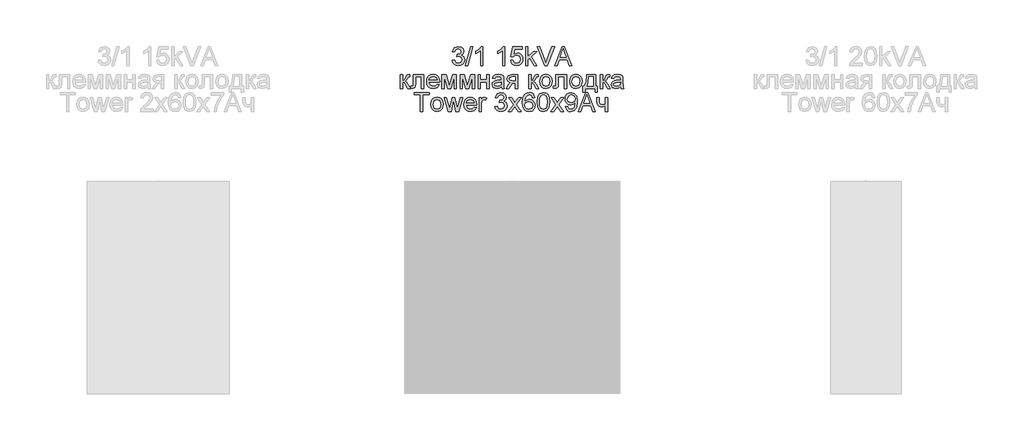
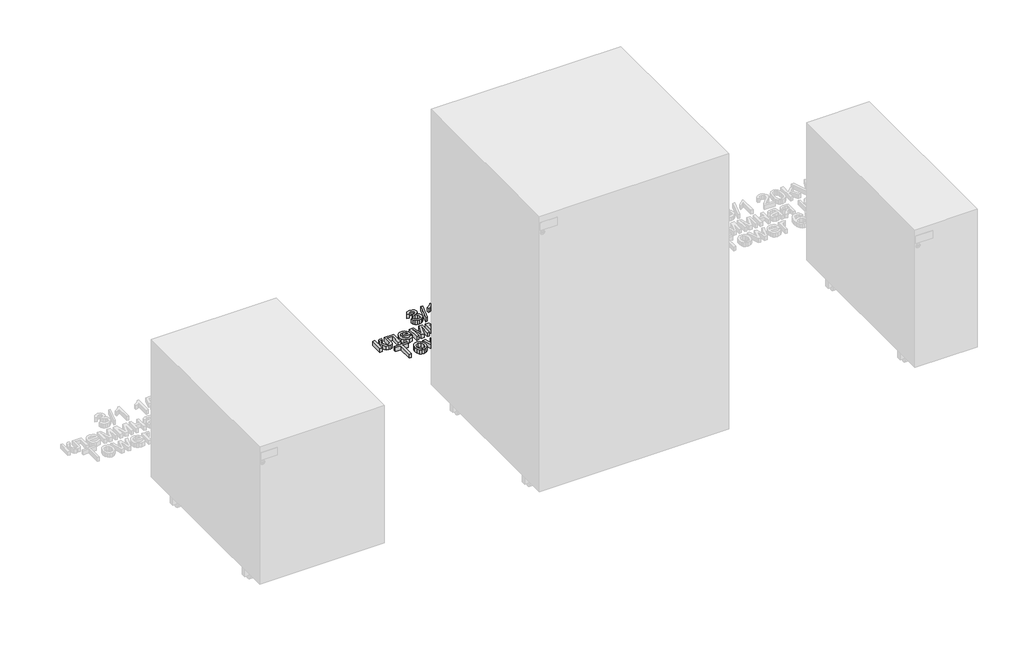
# One storey, part 46 of 74: 1 proxy.
"""IFC4 building model written with IfcOpenShell, lengths in millimetres."""

from ifc_helpers import new_model, si_unit, origin, origin_with_axes, place, context, project, spatial, polyline, outline, extrude, element, save

model = new_model("IFC4")

# Units and contexts
model_context = context("Model", 3, world=origin())
ifc_project = project(units=[si_unit("LENGTHUNIT", "METRE", prefix="MILLI")], contexts=[model_context])

# Site, building, storey
site = spatial("IfcSite", under=ifc_project)
building = spatial("IfcBuilding", under=site)
storey = spatial("IfcBuildingStorey", under=building, Name="Этаж 01", Elevation=0.0)

# Proxy
placement = place(None, origin())
element("IfcBuildingElementProxy", 1, Name="80 мм Arial", ObjectType="80 мм Arial", at=placement, inside=storey, context=model_context, shape_type="SweptSolid", body=[
    extrude(outline(polyline([(11598.3137414, -15105.2863601), (11608.3593724, -15104.0306562), (11613.9021278, -15114.6060373), (11624.2714949, -15117.8433988), (11636.475367, -15113.3895741), (11641.0076732, -15102.3629245), (11636.5146077, -15091.9739369), (11625.0955506, -15087.8634688), (11618.0518367, -15088.9622097), (11619.1701979, -15078.9165786), (11620.7790685, -15079.0343009), (11632.1785053, -15076.150106), (11637.2405615, -15067.2816974), (11633.5715518, -15059.423738), (11624.114532, -15056.3139089), (11614.5397899, -15059.4531685), (11609.6150762, -15068.8709476), (11599.5694452, -15067.6152437), (11607.7903816, -15051.8600842), (11623.7613652, -15046.2682778), (11635.8769456, -15049.0249403), (11644.3529468, -15056.5591635), (11647.2861926, -15066.6930862), (11644.5000996, -15075.9539023), (11636.2595429, -15082.6052088), (11647.2077111, -15089.4723394), (11651.0533042, -15102.5395078), (11649.1305076, -15112.330074), (11643.3621179, -15120.5117696), (11634.6555774, -15126.0447148), (11623.9183282, -15127.8890298), (11614.2062435, -15126.3144949), (11606.2992332, -15121.5908901), (11600.8006236, -15114.3656877), (11598.3137414, -15105.2863601)])), origin_with_axes(), (0.0, 0.0, 1.0), 20.0),
    extrude(outline(polyline([(11654.8204158, -15126.633326), (11677.4230856, -15046.2682778), (11686.487698, -15046.2682778), (11663.8850282, -15126.633326), (11654.8204158, -15126.633326)])), origin_with_axes(), (0.0, 0.0, 1.0), 20.0),
    extrude(outline(polyline([(11728.9069446, -15126.633326), (11718.8613135, -15126.633326), (11718.8613135, -15064.0050951), (11709.3454326, -15070.783934), (11698.7700515, -15075.8558004), (11698.7700515, -15066.3595399), (11713.4951415, -15056.9613812), (11722.4322214, -15046.2682778), (11728.9069446, -15046.2682778), (11728.9069446, -15126.633326)])), origin_with_axes(), (0.0, 0.0, 1.0), 20.0),
    extrude(outline(polyline([(11821.8290314, -15126.633326), (11811.7834004, -15126.633326), (11811.7834004, -15064.0050951), (11802.2675195, -15070.783934), (11791.6921384, -15075.8558004), (11791.6921384, -15066.3595399), (11806.4172284, -15056.9613812), (11815.3543083, -15046.2682778), (11821.8290314, -15046.2682778), (11821.8290314, -15126.633326)])), origin_with_axes(), (0.0, 0.0, 1.0), 20.0),
    extrude(outline(polyline([(11845.6874051, -15105.2863601), (11855.7330361, -15104.0306562), (11860.7950924, -15114.380403), (11871.291992, -15117.8433988), (11883.8882715, -15113.0265972), (11888.3813369, -15100.2439242), (11884.1727669, -15088.3147373), (11871.4489549, -15083.9393941), (11862.6295973, -15085.6856074), (11856.98874, -15090.2179135), (11846.943109, -15088.9622097), (11855.7330361, -15047.5239817), (11894.6598563, -15047.5239817), (11894.6598563, -15057.5696127), (11863.8558706, -15057.5696127), (11859.5590089, -15079.7013936), (11874.2546683, -15073.8937631), (11883.6405643, -15075.6939324), (11891.4323049, -15081.0944401), (11896.6783022, -15089.3251866), (11898.4269679, -15099.6160722), (11896.852433, -15109.6617032), (11892.1288282, -15118.2554267), (11883.0838362, -15125.480629), (11871.2527512, -15127.8890298), (11861.3861561, -15126.3414729), (11853.5257441, -15121.6988021), (11848.1374992, -15114.5005778), (11845.6874051, -15105.2863601)])), origin_with_axes(), (0.0, 0.0, 1.0), 20.0),
    extrude(outline(polyline([(11909.7283028, -15126.633326), (11909.7283028, -15046.2682778), (11919.7739338, -15046.2682778), (11919.7739338, -15089.452719), (11942.2981221, -15067.6152437), (11956.1893463, -15067.6152437), (11933.3904728, -15089.7274042), (11957.4450501, -15126.633326), (11945.712067, -15126.633326), (11926.1897958, -15096.712257), (11919.7739338, -15102.9319153), (11919.7739338, -15126.633326), (11909.7283028, -15126.633326)])), origin_with_axes(), (0.0, 0.0, 1.0), 20.0),
    extrude(outline(polyline([(11991.2313326, -15126.633326), (11959.2501245, -15046.2682778), (11970.0020889, -15046.2682778), (11991.4079159, -15104.1679988), (11995.7440184, -15117.2155469), (12000.0212597, -15104.1679988), (12021.4859479, -15046.2682778), (12032.2379123, -15046.2682778), (12001.6105099, -15126.633326), (11991.2313326, -15126.633326)])), origin_with_axes(), (0.0, 0.0, 1.0), 20.0),
    extrude(outline(polyline([(12032.2182919, -15126.633326), (12064.2976019, -15046.2682778), (12072.8520846, -15046.2682778), (12104.9313946, -15126.633326), (12094.3167727, -15126.633326), (12085.1148177, -15101.5192484), (12052.0152484, -15101.5192484), (12042.8329138, -15126.633326), (12032.2182919, -15126.633326)]), holes=[polyline([(12055.7038785, -15091.4736174), (12081.445808, -15091.4736174), (12074.2058903, -15071.7159017), (12068.5748432, -15056.3139089), (12063.5716481, -15069.9893089), (12055.7038785, -15091.4736174)])]), origin_with_axes(), (0.0, 0.0, 1.0), 20.0),
    extrude(outline(polyline([(11433.1886815, -15165.195098), (11478.3940211, -15165.195098), (11478.3940211, -15224.1543191), (11468.3483901, -15224.1543191), (11468.3483901, -15175.240729), (11443.2343126, -15175.240729), (11443.2343126, -15203.3959644), (11442.5574097, -15216.3846514), (11438.839349, -15221.8685457), (11430.0494219, -15224.2131802), (11421.8873467, -15223.7030505), (11421.8873467, -15214.1675492), (11426.3804121, -15214.1675492), (11430.9225285, -15213.5495075), (11432.737413, -15211.5874702), (11433.1886815, -15202.8269736), (11433.1886815, -15165.195098)])), origin_with_axes(), (0.0, 0.0, 1.0), 20.0),
    extrude(outline(polyline([(11379.1934148, -15165.195098), (11389.2390459, -15165.195098), (11389.2390459, -15190.3091756), (11395.9688338, -15188.5041012), (11401.4821587, -15177.9875813), (11406.0635158, -15168.9131587), (11410.1053126, -15165.9602926), (11417.4531423, -15165.195098), (11419.3759389, -15165.195098), (11419.3759389, -15175.2995902), (11416.6683274, -15175.240729), (11411.7632341, -15176.3002292), (11408.3100485, -15182.9122949), (11404.2584414, -15190.0639209), (11398.5783434, -15193.5661575), (11404.9157239, -15197.4755168), (11411.1353822, -15205.7111684), (11421.8873467, -15224.2131802), (11410.4682895, -15224.2131802), (11399.9321492, -15206.1035759), (11394.6346485, -15198.4418202), (11389.2390459, -15196.5876949), (11389.2390459, -15224.2131802), (11379.1934148, -15224.2131802), (11379.1934148, -15165.195098)])), origin_with_axes(), (0.0, 0.0, 1.0), 20.0),
    extrude(outline(polyline([(11534.7829733, -15206.633326), (11544.6324006, -15207.8890298), (11535.4206355, -15220.8580964), (11518.2626192, -15225.4688841), (11506.4756801, -15223.4798688), (11497.4061626, -15217.5128228), (11491.6230577, -15207.9552486), (11489.695356, -15195.1946485), (11491.642678, -15182.0048527), (11497.4846441, -15172.1407101), (11506.4315342, -15165.9897231), (11517.6936284, -15163.9393941), (11528.6050084, -15165.984818), (11537.3238116, -15172.1210897), (11543.0406979, -15181.9656119), (11544.9463266, -15195.1357873), (11544.8874655, -15197.8433988), (11499.740987, -15197.8433988), (11505.5191869, -15210.8909469), (11518.4588229, -15215.4232531), (11528.3082502, -15213.3238732), (11534.7829733, -15206.633326)]), holes=[polyline([(11499.740987, -15187.7977678), (11534.9006956, -15187.7977678), (11530.8785191, -15178.6939147), (11517.6543876, -15173.9850252), (11505.2837424, -15177.7423266), (11499.740987, -15187.7977678)])]), origin_with_axes(), (0.0, 0.0, 1.0), 20.0),
    extrude(outline(polyline([(11554.9919576, -15165.195098), (11572.2775063, -15165.195098), (11585.5997396, -15212.4409564), (11599.9618527, -15165.195098), (11616.5214476, -15165.195098), (11616.5214476, -15224.2131802), (11606.4758166, -15224.2131802), (11606.4758166, -15176.6926366), (11592.035222, -15224.2131802), (11578.8503313, -15224.2131802), (11565.0375886, -15174.4166734), (11565.0375886, -15224.2131802), (11554.9919576, -15224.2131802), (11554.9919576, -15165.195098)])), origin_with_axes(), (0.0, 0.0, 1.0), 20.0),
    extrude(outline(polyline([(11631.5898941, -15165.195098), (11648.8754428, -15165.195098), (11662.1976761, -15212.4409564), (11676.5597892, -15165.195098), (11693.1193841, -15165.195098), (11693.1193841, -15224.2131802), (11683.073753, -15224.2131802), (11683.073753, -15176.6926366), (11668.6331585, -15224.2131802), (11655.4482678, -15224.2131802), (11641.6355251, -15174.4166734), (11641.6355251, -15224.2131802), (11631.5898941, -15224.2131802), (11631.5898941, -15165.195098)])), origin_with_axes(), (0.0, 0.0, 1.0), 20.0),
    extrude(outline(polyline([(11708.1878306, -15165.195098), (11718.2334616, -15165.195098), (11718.2334616, -15187.7977678), (11744.603243, -15187.7977678), (11744.603243, -15165.195098), (11754.648874, -15165.195098), (11754.648874, -15224.2131802), (11744.603243, -15224.2131802), (11744.603243, -15197.8433988), (11718.2334616, -15197.8433988), (11718.2334616, -15224.2131802), (11708.1878306, -15224.2131802), (11708.1878306, -15165.195098)])), origin_with_axes(), (0.0, 0.0, 1.0), 20.0),
    extrude(outline(polyline([(11807.3884369, -15216.678957), (11797.6469216, -15223.4872264), (11786.885147, -15225.4688841), (11772.2973996, -15220.7011335), (11767.2059128, -15208.5168818), (11769.1287094, -15200.5706307), (11774.1809554, -15194.802241), (11781.2148592, -15191.5060183), (11789.9066844, -15189.9952496), (11807.3295757, -15186.5420639), (11807.3884369, -15184.3053414), (11804.6219643, -15176.8888404), (11793.5168331, -15173.9850252), (11783.3534798, -15175.9176319), (11778.5072477, -15182.7749523), (11768.4616167, -15181.5192484), (11772.8075293, -15171.7090619), (11781.5582157, -15165.9602926), (11794.8117777, -15163.9393941), (11806.9862192, -15165.7248481), (11813.86316, -15170.2081033), (11816.9435585, -15177.026183), (11817.4340679, -15185.8161101), (11817.4340679, -15198.3142878), (11817.9441976, -15215.7666096), (11819.9454756, -15224.2131802), (11809.8998446, -15224.2131802), (11807.3884369, -15216.678957)]), holes=[polyline([(11807.3884369, -15196.5876949), (11791.1820087, -15199.6680935), (11782.5392344, -15201.2965845), (11778.6249699, -15203.9453348), (11777.2515438, -15207.8105483), (11780.2436507, -15213.2453917), (11789.0237677, -15215.4232531), (11799.1871209, -15213.0197574), (11805.7403255, -15207.2023168), (11807.3295757, -15199.432649), (11807.3884369, -15196.5876949)])]), origin_with_axes(), (0.0, 0.0, 1.0), 20.0),
    extrude(outline(polyline([(11876.4521501, -15165.195098), (11876.4521501, -15224.2131802), (11866.4065191, -15224.2131802), (11866.4065191, -15201.6105105), (11860.932435, -15201.6105105), (11853.4766932, -15202.8858347), (11846.47222, -15211.4599377), (11838.4671078, -15224.2131802), (11826.8518469, -15224.2131802), (11836.9367187, -15208.0852336), (11845.4912014, -15199.7269546), (11833.797459, -15193.6250186), (11829.9911066, -15182.2452022), (11835.1905055, -15169.9236079), (11850.2393317, -15165.195098), (11876.4521501, -15165.195098)]), holes=[polyline([(11866.4065191, -15175.240729), (11853.1627672, -15175.240729), (11842.4402334, -15177.5657432), (11840.0367377, -15183.0103968), (11843.578215, -15189.4949301), (11856.1254436, -15191.5648794), (11866.4065191, -15191.5648794), (11866.4065191, -15175.240729)])]), origin_with_axes(), (0.0, 0.0, 1.0), 20.0),
    extrude(outline(polyline([(11922.9131935, -15165.195098), (11932.9588245, -15165.195098), (11932.9588245, -15190.3091756), (11939.6886125, -15188.5041012), (11945.2019373, -15177.9875813), (11949.7832945, -15168.9131587), (11953.8250913, -15165.9602926), (11961.172921, -15165.195098), (11963.0957176, -15165.195098), (11963.0957176, -15175.2995902), (11960.3881061, -15175.240729), (11955.4830128, -15176.3002292), (11952.0298272, -15182.9122949), (11947.9782201, -15190.0639209), (11942.2981221, -15193.5661575), (11948.6355026, -15197.4755168), (11954.8551609, -15205.7111684), (11965.6071253, -15224.2131802), (11954.1880682, -15224.2131802), (11943.6519279, -15206.1035759), (11938.3544271, -15198.4418202), (11932.9588245, -15196.5876949), (11932.9588245, -15224.2131802), (11922.9131935, -15224.2131802), (11922.9131935, -15165.195098)])), origin_with_axes(), (0.0, 0.0, 1.0), 20.0),
    extrude(outline(polyline([(11969.374237, -15194.7041391), (11971.5471933, -15180.4744636), (11978.0660622, -15170.4729784), (11986.1202254, -15165.5727902), (11995.7636388, -15163.9393941), (12006.3169469, -15165.9284095), (12014.7463497, -15171.8954554), (12020.2719373, -15181.3696431), (12022.1137998, -15193.8800835), (12018.8568179, -15211.7542433), (12009.3703675, -15221.8685457), (11995.7636388, -15225.4688841), (11985.0827982, -15223.4872264), (11976.6632056, -15217.5422534), (11971.1964791, -15207.8694095), (11969.374237, -15194.7041391)]), holes=[polyline([(11979.419868, -15194.6845188), (11984.0698964, -15210.2532848), (11995.7636388, -15215.4232531), (12007.4181404, -15210.2238542), (12012.0681688, -15194.3705928), (12007.3887098, -15179.1549935), (11995.7636388, -15173.9850252), (11984.0698964, -15179.1353731), (11979.419868, -15194.6845188)])]), origin_with_axes(), (0.0, 0.0, 1.0), 20.0),
    extrude(outline(polyline([(12038.4379502, -15165.195098), (12083.6432898, -15165.195098), (12083.6432898, -15224.1543191), (12073.5976588, -15224.1543191), (12073.5976588, -15175.240729), (12048.4835812, -15175.240729), (12048.4835812, -15203.3959644), (12047.8066783, -15216.3846514), (12044.0886176, -15221.8685457), (12035.2986905, -15224.2131802), (12027.1366153, -15223.7030505), (12027.1366153, -15214.1675492), (12031.6296807, -15214.1675492), (12036.1717971, -15213.5495075), (12037.9866816, -15211.5874702), (12038.4379502, -15202.8269736), (12038.4379502, -15165.195098)])), origin_with_axes(), (0.0, 0.0, 1.0), 20.0),
    extrude(outline(polyline([(12096.2003285, -15194.7041391), (12098.3732849, -15180.4744636), (12104.8921538, -15170.4729784), (12112.946317, -15165.5727902), (12122.5897303, -15163.9393941), (12133.1430385, -15165.9284095), (12141.5724413, -15171.8954554), (12147.0980288, -15181.3696431), (12148.9398914, -15193.8800835), (12145.6829094, -15211.7542433), (12136.1964591, -15221.8685457), (12122.5897303, -15225.4688841), (12111.9088897, -15223.4872264), (12103.4892971, -15217.5422534), (12098.0225707, -15207.8694095), (12096.2003285, -15194.7041391)]), holes=[polyline([(12106.2459596, -15194.6845188), (12110.895988, -15210.2532848), (12122.5897303, -15215.4232531), (12134.2442319, -15210.2238542), (12138.8942603, -15194.3705928), (12134.2148014, -15179.1549935), (12122.5897303, -15173.9850252), (12110.895988, -15179.1353731), (12106.2459596, -15194.6845188)])]), origin_with_axes(), (0.0, 0.0, 1.0), 20.0),
    extrude(outline(polyline([(12169.0311534, -15165.195098), (12206.7022697, -15165.195098), (12206.7022697, -15214.1675492), (12214.236493, -15214.1675492), (12214.236493, -15240.5373306), (12204.1908619, -15240.5373306), (12204.1908619, -15224.2131802), (12162.752634, -15224.2131802), (12162.752634, -15240.5373306), (12152.707003, -15240.5373306), (12152.707003, -15214.1675492), (12158.9855224, -15214.1675492), (12166.7453799, -15195.0082549), (12169.0311534, -15165.195098)]), holes=[polyline([(12177.8210805, -15175.240729), (12175.4666358, -15198.1278942), (12170.2868573, -15214.1675492), (12196.6566387, -15214.1675492), (12196.6566387, -15175.240729), (12177.8210805, -15175.240729)])]), origin_with_axes(), (0.0, 0.0, 1.0), 20.0),
    extrude(outline(polyline([(12225.5378279, -15165.195098), (12235.5834589, -15165.195098), (12235.5834589, -15190.3091756), (12242.3132468, -15188.5041012), (12247.8265717, -15177.9875813), (12252.4079288, -15168.9131587), (12256.4497256, -15165.9602926), (12263.7975554, -15165.195098), (12265.7203519, -15165.195098), (12265.7203519, -15175.2995902), (12263.0127404, -15175.240729), (12258.1076472, -15176.3002292), (12254.6544615, -15182.9122949), (12250.6028545, -15190.0639209), (12244.9227565, -15193.5661575), (12251.260137, -15197.4755168), (12257.4797952, -15205.7111684), (12268.2317597, -15224.2131802), (12256.8127025, -15224.2131802), (12246.2765622, -15206.1035759), (12240.9790615, -15198.4418202), (12235.5834589, -15196.5876949), (12235.5834589, -15224.2131802), (12225.5378279, -15224.2131802), (12225.5378279, -15165.195098)])), origin_with_axes(), (0.0, 0.0, 1.0), 20.0),
    extrude(outline(polyline([(12312.1813954, -15216.678957), (12302.4398801, -15223.4872264), (12291.6781055, -15225.4688841), (12277.0903581, -15220.7011335), (12271.9988713, -15208.5168818), (12273.9216679, -15200.5706307), (12278.9739139, -15194.802241), (12286.0078177, -15191.5060183), (12294.6996429, -15189.9952496), (12312.1225342, -15186.5420639), (12312.1813954, -15184.3053414), (12309.4149228, -15176.8888404), (12298.3097916, -15173.9850252), (12288.1464383, -15175.9176319), (12283.3002062, -15182.7749523), (12273.2545752, -15181.5192484), (12277.6004878, -15171.7090619), (12286.3511742, -15165.9602926), (12299.6047362, -15163.9393941), (12311.7791777, -15165.7248481), (12318.6561185, -15170.2081033), (12321.736517, -15177.026183), (12322.2270264, -15185.8161101), (12322.2270264, -15198.3142878), (12322.7371561, -15215.7666096), (12324.7384341, -15224.2131802), (12314.6928031, -15224.2131802), (12312.1813954, -15216.678957)]), holes=[polyline([(12312.1813954, -15196.5876949), (12295.9749672, -15199.6680935), (12287.3321929, -15201.2965845), (12283.4179284, -15203.9453348), (12282.0445023, -15207.8105483), (12285.0366092, -15213.2453917), (12293.8167262, -15215.4232531), (12303.9800794, -15213.0197574), (12310.533284, -15207.2023168), (12312.1225342, -15199.432649), (12312.1813954, -15196.5876949)])]), origin_with_axes(), (0.0, 0.0, 1.0), 20.0),
    extrude(outline(polyline([(11463.9534265, -15321.7930345), (11463.9534265, -15251.4736174), (11437.5836451, -15251.4736174), (11437.5836451, -15241.4279864), (11500.368839, -15241.4279864), (11500.368839, -15251.4736174), (11473.9990575, -15251.4736174), (11473.9990575, -15321.7930345), (11463.9534265, -15321.7930345)])), origin_with_axes(), (0.0, 0.0, 1.0), 20.0),
    extrude(outline(polyline([(11507.9030622, -15292.2839934), (11510.0760185, -15278.0543178), (11516.5948875, -15268.0528327), (11524.6490506, -15263.1526445), (11534.292464, -15261.5192484), (11544.8457722, -15263.5082637), (11553.275175, -15269.4753097), (11558.8007625, -15278.9494974), (11560.6426251, -15291.4599377), (11557.3856431, -15309.3340976), (11547.8991927, -15319.4483999), (11534.292464, -15323.0487384), (11523.6116234, -15321.0670807), (11515.1920308, -15315.1221077), (11509.7253044, -15305.4492637), (11507.9030622, -15292.2839934)]), holes=[polyline([(11517.9486932, -15292.264373), (11522.5987217, -15307.8331391), (11534.292464, -15313.0031074), (11545.9469656, -15307.8037085), (11550.596994, -15291.9504471), (11545.9175351, -15276.7348477), (11534.292464, -15271.5648794), (11522.5987217, -15276.7152274), (11517.9486932, -15292.264373)])]), origin_with_axes(), (0.0, 0.0, 1.0), 20.0),
    extrude(outline(polyline([(11581.7345261, -15321.7930345), (11563.7818847, -15262.7749523), (11574.2199232, -15262.7749523), (11584.4028968, -15297.208707), (11587.4440547, -15309.510681), (11589.9358421, -15297.6599756), (11598.0390561, -15262.7749523), (11610.0074837, -15262.7749523), (11618.071457, -15297.5618738), (11620.2885592, -15308.2942178), (11623.4670596, -15296.9732626), (11633.6696536, -15262.7749523), (11644.1469329, -15262.7749523), (11626.0569489, -15321.7930345), (11613.911938, -15321.7930345), (11606.2011313, -15287.1826964), (11603.9644088, -15276.3914912), (11594.0168797, -15321.7930345), (11581.7345261, -15321.7930345)])), origin_with_axes(), (0.0, 0.0, 1.0), 20.0),
    extrude(outline(polyline([(11692.3738099, -15304.2131802), (11702.2232372, -15305.4688841), (11693.011472, -15318.4379507), (11675.8534558, -15323.0487384), (11664.0665166, -15321.0597231), (11654.9969992, -15315.0926771), (11649.2138942, -15305.5351029), (11647.2861926, -15292.7745027), (11649.2335146, -15279.5847069), (11655.0754807, -15269.7205644), (11664.0223708, -15263.5695774), (11675.2844649, -15261.5192484), (11686.1958449, -15263.5646723), (11694.9146482, -15269.700944), (11700.6315344, -15279.5454662), (11702.5371631, -15292.7156416), (11702.478302, -15295.4232531), (11657.3318236, -15295.4232531), (11663.1100234, -15308.4708012), (11676.0496595, -15313.0031074), (11685.8990868, -15310.9037275), (11692.3738099, -15304.2131802)]), holes=[polyline([(11657.3318236, -15285.3776221), (11692.4915321, -15285.3776221), (11688.4693556, -15276.273769), (11675.2452242, -15271.5648794), (11662.874579, -15275.3221809), (11657.3318236, -15285.3776221)])]), origin_with_axes(), (0.0, 0.0, 1.0), 20.0),
    extrude(outline(polyline([(11712.5827942, -15321.7930345), (11712.5827942, -15262.7749523), (11721.3727213, -15262.7749523), (11721.3727213, -15271.5060183), (11727.6119999, -15263.4616654), (11733.8905193, -15261.5192484), (11743.9753911, -15264.6192674), (11740.6203073, -15273.6250186), (11733.556973, -15271.5648794), (11727.876875, -15273.5465371), (11724.2569161, -15279.0402416), (11722.6284252, -15290.7732247), (11722.6284252, -15321.7930345), (11712.5827942, -15321.7930345)])), origin_with_axes(), (0.0, 0.0, 1.0), 20.0),
    extrude(outline(polyline([(11779.1350996, -15300.4460686), (11789.1807306, -15299.1903647), (11794.723486, -15309.7657458), (11805.0928532, -15313.0031074), (11817.2967253, -15308.5492827), (11821.8290314, -15297.522633), (11817.335966, -15287.1336455), (11805.9169089, -15283.0231773), (11798.8731949, -15284.1219182), (11799.9915562, -15274.0762872), (11801.6004268, -15274.1940094), (11812.9998636, -15271.3098146), (11818.0619198, -15262.441406), (11814.39291, -15254.5834465), (11804.9358902, -15251.4736174), (11795.3611482, -15254.6128771), (11790.4364345, -15264.0306562), (11780.3908035, -15262.7749523), (11788.6117398, -15247.0197927), (11804.5827235, -15241.4279864), (11816.6983039, -15244.1846488), (11825.174305, -15251.7188721), (11828.1075508, -15261.8527948), (11825.3214578, -15271.1136109), (11817.0809012, -15277.7649173), (11828.0290693, -15284.6320479), (11831.8746625, -15297.6992164), (11829.9518659, -15307.4897825), (11824.1834762, -15315.6714781), (11815.4769357, -15321.2044233), (11804.7396865, -15323.0487384), (11795.0276018, -15321.4742035), (11787.1205915, -15316.7505986), (11781.6219819, -15309.5253962), (11779.1350996, -15300.4460686)])), origin_with_axes(), (0.0, 0.0, 1.0), 20.0),
    extrude(outline(polyline([(11836.897478, -15321.7930345), (11858.3621661, -15292.1270304), (11838.1531818, -15262.7749523), (11850.2393317, -15262.7749523), (11859.9906571, -15276.9016209), (11864.5425836, -15283.5725478), (11868.4862786, -15278.118084), (11879.5914098, -15262.7749523), (11891.6775596, -15262.7749523), (11870.4483159, -15292.1270304), (11890.8927447, -15321.7930345), (11878.8065949, -15321.7930345), (11866.5046209, -15303.9581154), (11864.248278, -15300.7011335), (11848.9836278, -15321.7930345), (11836.897478, -15321.7930345)])), origin_with_axes(), (0.0, 0.0, 1.0), 20.0),
    extrude(outline(polyline([(11948.655123, -15262.7749523), (11938.609492, -15264.0306562), (11934.8031396, -15255.6527569), (11924.7378882, -15251.4736174), (11915.6732759, -15253.9065437), (11908.8159555, -15263.0398273), (11905.9611912, -15280.9434178), (11914.8197896, -15272.9284954), (11925.7973884, -15270.3091756), (11935.0778248, -15272.0995346), (11942.8671129, -15277.4706117), (11948.1498984, -15285.6768328), (11949.9108269, -15295.9726235), (11946.5949838, -15309.8344171), (11937.4715103, -15319.6446037), (11924.30624, -15323.0487384), (11912.9092558, -15320.7923955), (11903.8323807, -15314.0233668), (11897.8947653, -15302.0745596), (11895.9155602, -15284.2788812), (11898.113042, -15264.2710057), (11904.7054873, -15250.5907006), (11913.7063335, -15243.7186649), (11925.3657402, -15241.4279864), (11934.1801928, -15242.8455583), (11941.238622, -15247.0982742), (11948.655123, -15262.7749523)]), holes=[polyline([(11905.9611912, -15295.8156606), (11908.2862054, -15304.517296), (11914.4666229, -15310.8350561), (11923.5214251, -15313.0031074), (11935.3623202, -15308.5100419), (11939.8651959, -15296.3061699), (11935.4211814, -15284.6222377), (11923.1093973, -15280.3548066), (11910.9545761, -15284.6222377), (11905.9611912, -15295.8156606)])]), origin_with_axes(), (0.0, 0.0, 1.0), 20.0),
    extrude(outline(polyline([(11958.700754, -15282.2579828), (11961.6536202, -15259.1353731), (11970.4239269, -15245.8033296), (11985.0705354, -15241.4279864), (11996.8035185, -15244.0178756), (12004.9067326, -15251.4834276), (12009.6156222, -15263.3733737), (12011.4403168, -15282.2579828), (12008.5168813, -15305.2824906), (11999.7760051, -15318.6439646), (11985.0705354, -15323.0487384), (11974.632497, -15321.135752), (11966.7058662, -15315.3967929), (11960.7020321, -15301.8047794), (11958.700754, -15282.2579828)]), holes=[polyline([(11968.746385, -15282.2383624), (11969.9236074, -15298.0401204), (11973.4552746, -15307.1856668), (11985.0705354, -15313.0031074), (11996.6857963, -15307.1660464), (12000.2174634, -15298.0155949), (12001.3946858, -15282.2383624), (12000.2567042, -15266.7922237), (11996.8427593, -15257.5755534), (11991.5943095, -15252.9991014), (11984.9528132, -15251.4736174), (11973.6122376, -15256.8495996), (11969.9628482, -15266.6401658), (11968.746385, -15282.2383624)])]), origin_with_axes(), (0.0, 0.0, 1.0), 20.0),
    extrude(outline(polyline([(12016.4631324, -15321.7930345), (12037.9278205, -15292.1270304), (12017.7188362, -15262.7749523), (12029.804986, -15262.7749523), (12039.5563115, -15276.9016209), (12044.108238, -15283.5725478), (12048.051933, -15278.118084), (12059.1570642, -15262.7749523), (12071.243214, -15262.7749523), (12050.0139703, -15292.1270304), (12070.4583991, -15321.7930345), (12058.3722492, -15321.7930345), (12046.0702753, -15303.9581154), (12043.8139324, -15300.7011335), (12028.5492822, -15321.7930345), (12016.4631324, -15321.7930345)])), origin_with_axes(), (0.0, 0.0, 1.0), 20.0),
    extrude(outline(polyline([(12077.9926223, -15301.7017725), (12088.0382533, -15300.4460686), (12092.5509391, -15310.0306209), (12101.1054218, -15313.0031074), (12109.2380664, -15311.090121), (12114.7513913, -15305.9790138), (12118.0378038, -15297.2479478), (12119.4897114, -15285.5934462), (12119.4308503, -15283.6314089), (12111.3963075, -15291.2441136), (12100.379468, -15294.1675492), (12091.2192063, -15292.3820953), (12083.5942388, -15287.0257334), (12078.4512485, -15278.7508411), (12076.7369184, -15268.2097956), (12078.5346351, -15257.3204886), (12083.9277852, -15248.7856263), (12092.0285467, -15243.2673964), (12101.9490978, -15241.4279864), (12116.26216, -15245.6267462), (12126.1115873, -15257.5951738), (12129.4764813, -15280.0801214), (12126.1213975, -15304.4780553), (12116.1444378, -15318.3006081), (12100.6345329, -15323.0487384), (12092.0457145, -15321.6483343), (12085.1932992, -15317.4471219), (12077.9926223, -15301.7017725)]), holes=[polyline([(12119.4308503, -15267.9743512), (12115.0947478, -15255.9274421), (12103.5775888, -15251.4736174), (12091.491439, -15256.2707986), (12086.7825495, -15268.700305), (12091.2363741, -15279.8348667), (12103.3029036, -15284.1219182), (12114.8887339, -15279.8348667), (12119.4308503, -15267.9743512)])]), origin_with_axes(), (0.0, 0.0, 1.0), 20.0),
    extrude(outline(polyline([(12132.6746021, -15321.7930345), (12164.7539121, -15241.4279864), (12173.3083947, -15241.4279864), (12205.3877047, -15321.7930345), (12194.7730829, -15321.7930345), (12185.5711279, -15296.678957), (12152.4715585, -15296.678957), (12143.2892239, -15321.7930345), (12132.6746021, -15321.7930345)]), holes=[polyline([(12156.1601887, -15286.633326), (12181.9021181, -15286.633326), (12174.6622005, -15266.8756103), (12169.0311534, -15251.4736174), (12164.0279583, -15265.1490174), (12156.1601887, -15286.633326)])]), origin_with_axes(), (0.0, 0.0, 1.0), 20.0),
    extrude(outline(polyline([(12211.0972333, -15262.7749523), (12221.1428643, -15262.7749523), (12221.1428643, -15274.0959076), (12221.9571098, -15284.7105294), (12225.8713742, -15290.4592987), (12233.6410419, -15292.9118453), (12247.5126457, -15289.8706875), (12247.5126457, -15262.7749523), (12257.5582767, -15262.7749523), (12257.5582767, -15321.7930345), (12247.5126457, -15321.7930345), (12247.5126457, -15299.5042907), (12230.9530508, -15302.9574764), (12219.5634243, -15299.3571379), (12212.8630668, -15290.5377802), (12211.0972333, -15279.059862), (12211.0972333, -15262.7749523)])), origin_with_axes(), (0.0, 0.0, 1.0), 20.0),
])

save(model, "model.ifc")
